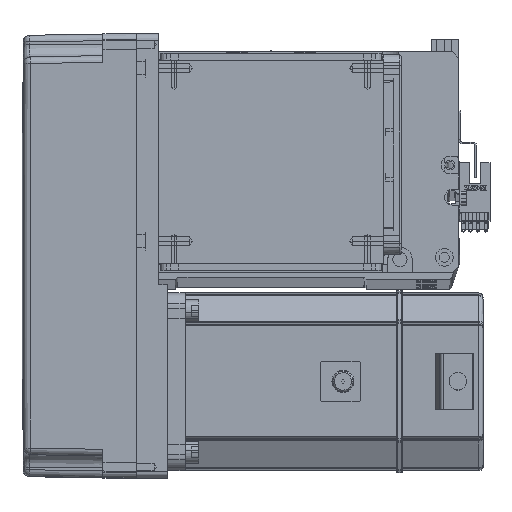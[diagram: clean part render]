
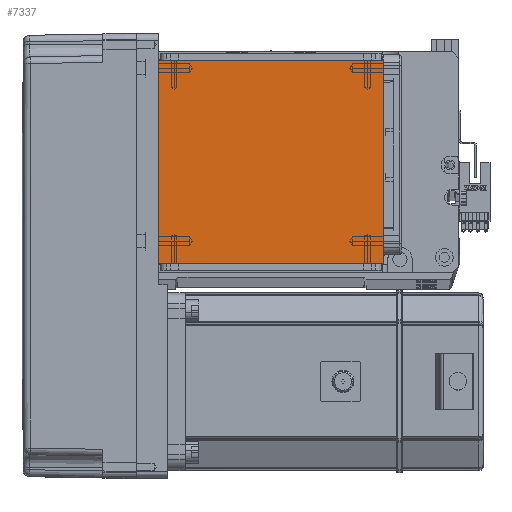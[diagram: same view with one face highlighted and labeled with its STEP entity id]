
A CAD part, top view. The second image highlights one B-rep face of the part: STEP entity #7337.
In plain terms, the highlighted planar face has unit normal (0, 0, 1).
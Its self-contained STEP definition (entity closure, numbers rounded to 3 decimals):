
#990 = LINE ( 'NONE', #35709, #29738 ) ;
#2086 = EDGE_CURVE ( 'NONE', #55627, #13912, #43807, .T. ) ;
#2188 = ORIENTED_EDGE ( 'NONE', *, *, #2086, .F. ) ;
#4456 = CARTESIAN_POINT ( 'NONE',  ( 50.5, 20., 115. ) ) ;
#5616 = CARTESIAN_POINT ( 'NONE',  ( -50.5, 20., 115. ) ) ;
#7337 = ADVANCED_FACE ( 'NONE', ( #22143 ), #40794, .T. ) ;
#7415 = CARTESIAN_POINT ( 'NONE',  ( 50.5, 122., 115. ) ) ;
#8175 = DIRECTION ( 'NONE',  ( -1., 0., 0. ) ) ;
#9995 = VERTEX_POINT ( 'NONE', #4456 ) ;
#11020 = CARTESIAN_POINT ( 'NONE',  ( 0., 0., 115. ) ) ;
#11258 = VERTEX_POINT ( 'NONE', #5616 ) ;
#13760 = EDGE_CURVE ( 'NONE', #9995, #11258, #63438, .T. ) ;
#13912 = VERTEX_POINT ( 'NONE', #45358 ) ;
#15017 = EDGE_CURVE ( 'NONE', #55627, #11258, #990, .T. ) ;
#15694 = EDGE_LOOP ( 'NONE', ( #2188, #43383, #20110, #61915 ) ) ;
#15846 = CARTESIAN_POINT ( 'NONE',  ( -50.5, 111.5, 115. ) ) ;
#18449 = EDGE_CURVE ( 'NONE', #9995, #13912, #62682, .T. ) ;
#20110 = ORIENTED_EDGE ( 'NONE', *, *, #13760, .F. ) ;
#22143 = FACE_OUTER_BOUND ( 'NONE', #15694, .T. ) ;
#29738 = VECTOR ( 'NONE', #55037, 1000. ) ;
#30538 = VECTOR ( 'NONE', #36573, 1000. ) ;
#31777 = CARTESIAN_POINT ( 'NONE',  ( -70.004, 111.5, 115. ) ) ;
#35709 = CARTESIAN_POINT ( 'NONE',  ( -50.5, 122., 115. ) ) ;
#36573 = DIRECTION ( 'NONE',  ( 1., 0., 0. ) ) ;
#40794 = PLANE ( 'NONE',  #58040 ) ;
#43383 = ORIENTED_EDGE ( 'NONE', *, *, #15017, .T. ) ;
#43807 = LINE ( 'NONE', #31777, #30538 ) ;
#45358 = CARTESIAN_POINT ( 'NONE',  ( 50.5, 111.5, 115. ) ) ;
#49572 = VECTOR ( 'NONE', #57574, 1000. ) ;
#50794 = DIRECTION ( 'NONE',  ( 1., 0., 0. ) ) ;
#51800 = VECTOR ( 'NONE', #8175, 1000. ) ;
#55037 = DIRECTION ( 'NONE',  ( 0., -1., 0. ) ) ;
#55627 = VERTEX_POINT ( 'NONE', #15846 ) ;
#55966 = DIRECTION ( 'NONE',  ( 0., 0., 1. ) ) ;
#57574 = DIRECTION ( 'NONE',  ( 0., 1., 0. ) ) ;
#58040 = AXIS2_PLACEMENT_3D ( 'NONE', #11020, #55966, #50794 ) ;
#61915 = ORIENTED_EDGE ( 'NONE', *, *, #18449, .T. ) ;
#62626 = CARTESIAN_POINT ( 'NONE',  ( -70.004, 20., 115. ) ) ;
#62682 = LINE ( 'NONE', #7415, #49572 ) ;
#63438 = LINE ( 'NONE', #62626, #51800 ) ;
